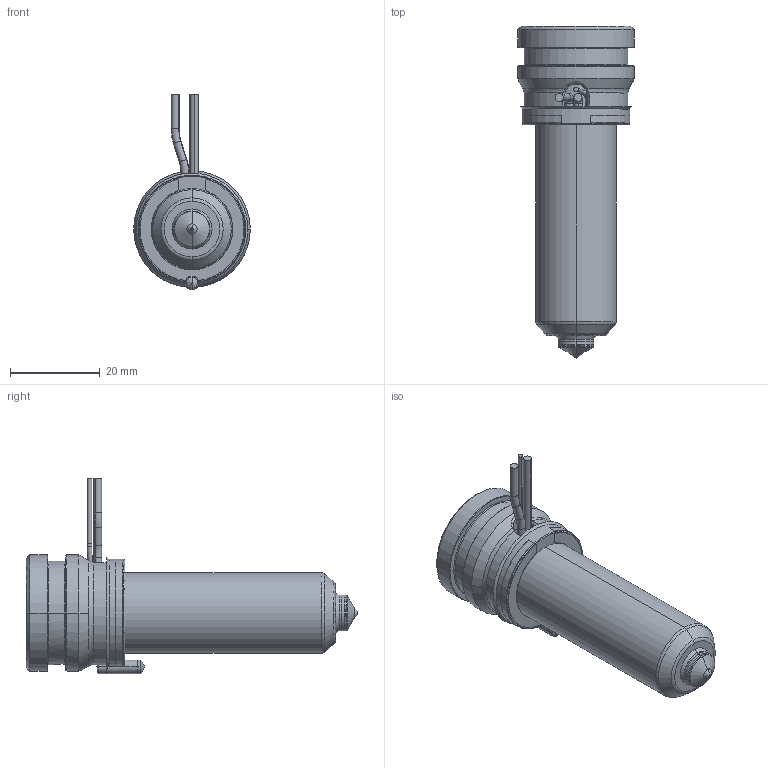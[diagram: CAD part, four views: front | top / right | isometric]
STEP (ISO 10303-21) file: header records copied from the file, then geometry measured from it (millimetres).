
FILE_DESCRIPTION((''),'2;1');
FILE_NAME('MPN-08-24-TS8-056-A','2026-02-05T11:52:25',('UPTIO'),('Thermoplay S.p.A.'),'CREO PARAMETRIC BY PTC INC, 2023494','CREO PARAMETRIC BY PTC INC, 2023494','');
FILE_SCHEMA(('CONFIG_CONTROL_DESIGN','SHAPE_APPEARANCE_LAYERS_GROUPS'));
Length unit declared in the file: millimetre
Products named in the file (1): MPN-08-24-TS8-056-A
Bounding box: 26 x 74 x 43.5 mm (x, y, z)
Volume: 15920.7 mm3; surface area: 18981.8 mm2
Topology: 2 solids, 5 shells, 548 faces, 1437 edges, 892 vertices
Faces by surface type: cylinder 178, plane 146, bspline 82, torus 64, cone 60, sphere 12, extrusion 6
Entity records: 30415 total; most frequent: CARTESIAN_POINT 14242, ORIENTED_EDGE 2854, DIRECTION 2539, EDGE_CURVE 1427, AXIS2_PLACEMENT_3D 992, VERTEX_POINT 892, EDGE_LOOP 575, VECTOR 555
